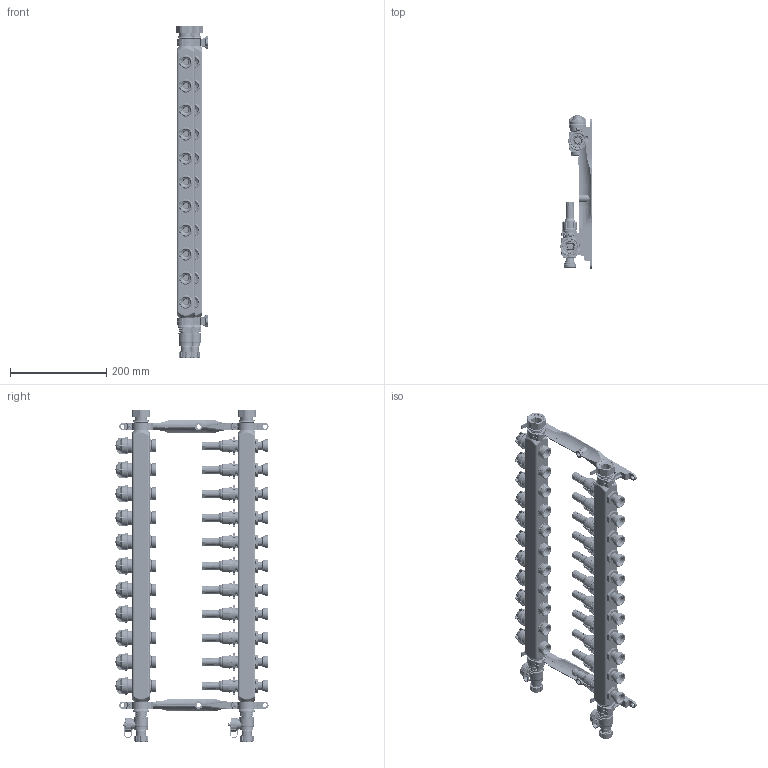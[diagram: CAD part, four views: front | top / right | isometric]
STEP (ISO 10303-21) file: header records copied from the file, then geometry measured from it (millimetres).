
FILE_DESCRIPTION (( 'STEP AP214' ), '1' );
FILE_NAME ('ProCalida_VA_1C_11obiegow.STEP', '2023-10-24T12:09:21', ( '' ), ( '' ), 'SwSTEP 2.0', 'SolidWorks 2022', '' );
FILE_SCHEMA (( 'AUTOMOTIVE_DESIGN' ));
Length unit declared in the file: millimetre
Products named in the file (48): Anschlussnippel G1_2 - G3_4_Baugruppe; Grundk_X_F6rper KFE-Hahn G3_4_05 01 000320_0; Lasche oben_2; DFM 0,5-4 l_min G1_2 KST EK_05 01 00 01; LAGER_05 01 000501; SCHRAUBKAPPE_05 01 000227; Einschraubst. G3_4xG1_2x40mm vern._05 02 000007; 801 000 0190_O-Ring _X_F89,0x2,0mm EPDM_0; ProCalida_VA_1C_11obiegow; 05 01000235_Einschraubk_X_F6rper G1_2; Stellmutter M30x1,5 IG grau_05 01 000183; 05 01 000037_Haltelasche f_X_FCr Endmodul_0; T_X_DCLLE-FLACH_011 030.016; korp_end; 05 01 000033_Verschlussdeckel G3_4 mit Zapfen_0; SCHRAUBKAPPE BEDRUCKT_05 01 000227; LASCHE_2; bot; ISO 7049-ST3.5x25-C-H_Blechschrauben_0_4; mid; 801 000 0268_O-Ring _X_F86,0x2,10mm EPDM_0; 05 01 000945_Geh_X_E4use KFE G3_4 ohne Logoaufn.; Lasche unten_2; Einstellring Verteiler, schwarz_05 01 000181; 05 02 00 43_Verschlussdeckel G3_4 mit Lasche; SCHEIBE_011 030.018; 05 01 000035_Verschlussschraube; _X_DCberwurfmutter G1_05 00 350408; LASCHE; Bewegung_Baugruppe_2; Hubvtl. M30x1,5AGxG1_2 KST VT gelb_05 01 01 60_0; O-Ring _X_F818x2 EPDM_801 000 0177_2; 801 018 3200_O-Ring _X_F818,0x3,0mm EPDM 70_X_B15 IRHD perox; Anschluss-Flach 3_4 Ni_011 030.115; 05 01 00 16_Verschlussschraube, komplett_0; Wandhalter K_X_F6rper _X_F832_05 01 000265_2; 05 01 000428_Handrad Caradesign schwarz DFM; Verteiler oben_Baugruppe_2; BEDRUCKUNG; Ventilk_X_F6rper M30x1,5 G1_2 AG Kst._05 01 000900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
Assembly tree (113 placements, depth 6):
  ProCalida_VA_1C_11obiegow
    korp_end  x4
    mid  x18
    LAGER_05 01 000501  x4
    Wandhalter _X_F832_05 01 000265_2  x2
      Lasche oben_2
        Lasche oben_2
        ISO 7049-ST3.5x25-C-H_Blechschrauben_0_3
      Lasche unten_2
        Lasche unten_2
        ISO 7049-ST3.5x25-C-H_Blechschrauben_0_4
      Wandhalter K_X_F6rper _X_F832_05 01 000265_2
    Anschluss-Flach 3_4 Ni_011 030.115  x2
      T_X_DCLLE-FLACH_011 030.016
      SCHEIBE_011 030.018
      O-RING 21,82X3,53_801 000 0127
      _X_DCberwurfmutter G1_05 00 350408
    DFM 0,5-4 l_min G1_2 KST EK_05 01 00 01  x11
      Bewegung_Baugruppe_2
        SCHRAUBKAPPE BEDRUCKT_05 01 000227
          BEDRUCKUNG
          SCHRAUBKAPPE_05 01 000227
      Einstellring Verteiler, schwarz_05 01 000181
      05 01 000428_Handrad Caradesign schwarz DFM
      05 01000235_Einschraubk_X_F6rper G1_2
    Verteiler oben_Baugruppe_2  x2
      Lagerring _X_F826x2,4 EPDM 50_05 01 000501
      05 01 02 16_KFE-Hahn G3_4 Kunststoff o. Logoaufnahme_0
        05 01 00 16_Verschlussschraube, komplett_0
          801 000 0190_O-Ring _X_F89,0x2,0mm EPDM_0
          801 000 0268_O-Ring _X_F86,0x2,10mm EPDM_0
        05 02 00 43_Verschlussdeckel G3_4 mit Lasche
          05 01 000037_Haltelasche f_X_FCr Endmodul_0
            LASCHE
            LASCHE_2
            A
          05 01 000033_Verschlussdeckel G3_4 mit Zapfen_0
          801 018 3200_O-Ring _X_F818,0x3,0mm EPDM 70_X_B15 IRHD perox
        05 01 000035_Verschlussschraube
        Grundk_X_F6rper KFE-Hahn G3_4_05 01 000320_0
        05 01 000945_Geh_X_E4use KFE G3_4 ohne Logoaufn.
    Hubvtl. M30x1,5AGxG1_2 KST VT gelb_05 01 01 60_0  x11
      Stellmutter M30x1,5 IG grau_05 01 000183
      Ventilk_X_F6rper M30x1,5 G1_2 AG Kst._05 01 000900
    bot  x11
    Anschlussnippel G1_2 - G3_4_Baugruppe  x11
      Einschraubst. G3_4xG1_2x40mm vern._05 02 000007
      O-Ring _X_F818x2 EPDM_801 000 0177_2
Bounding box: 66.4 x 318.7 x 691.22 mm (x, y, z)
Volume: 931079.7 mm3; surface area: 903468.1 mm2
Topology: 880 solids, 891 shells, 27916 faces, 72959 edges, 47373 vertices
Faces by surface type: plane 12422, cylinder 7022, cone 5213, bspline 3149, torus 110
Entity records: 210302 total; most frequent: CARTESIAN_POINT 80898, ORIENTED_EDGE 20472, DIRECTION 17899, EDGE_CURVE 10236, AXIS2_PLACEMENT_3D 6932, VERTEX_POINT 6625, EDGE_LOOP 4097, VECTOR 4035
